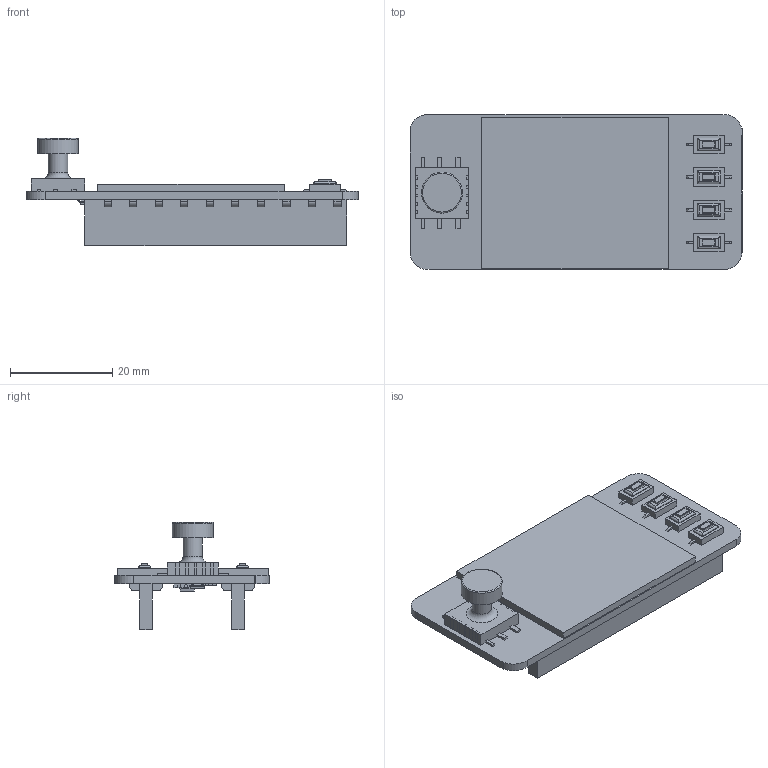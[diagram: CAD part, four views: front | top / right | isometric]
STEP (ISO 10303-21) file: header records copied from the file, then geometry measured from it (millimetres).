
FILE_DESCRIPTION(/* description */ (''),/* implementation_level */ '2;1');
FILE_NAME(/* name */ 'Pico 1.44inch LCD V1.2_step.prt.stp',/* time_stamp */ '2025-08-22T09:22:44+08:00',/* author */ (''),/* organization */ (''),/* preprocessor_version */ 'ST-DEVELOPER v16.7',/* originating_system */ 'SIEMENS PLM Software NX 12.0',/* authorisation */ '');
FILE_SCHEMA (('AUTOMOTIVE_DESIGN { 1 0 10303 214 3 1 1 1 }'));
Length unit declared in the file: millimetre
Products named in the file (40): LOGO_17124; R_060311660; Extruded; C_06033841; LOGO_; SOT23-5-2; SOT23-3; Open CASCADE STEP translator 6.8 6.1.1; A方形按键; Ayuananjian1; Ajiepai; R_0603; R7; R6; R5; R4; U1; C_0603; C14; C13; C9; C8; C7; C6; C5; C4; C3; C2; R3; R2; R1; Q1; 5872944928; J1; C1; C10; C11; C12; Board; Pico 1.44inch LCD V1.2_step
Assembly tree (62 placements, depth 4):
  Pico 1.44inch LCD V1.2_step
    Board
      Open CASCADE STEP translator 6.8 6.1.1
    C12
      C_0603
        LOGO_
        C_06033841
    C11
      C_0603
        LOGO_
        C_06033841
    C10
      C_0603
        LOGO_
        C_06033841
    C1
      C_0603
        LOGO_
        C_06033841
    J1
      5872944928
        Extruded
    Q1
      SOT23-3
    R1
      R_0603
        R_060311660
        LOGO_17124
    R2
      R_0603
        R_060311660
        LOGO_17124
    R3
      R_0603
        R_060311660
        LOGO_17124
    C2
      C_0603
        LOGO_
        C_06033841
    C3
      C_0603
        LOGO_
        C_06033841
    C4
      C_0603
        LOGO_
        C_06033841
    C5
      C_0603
        LOGO_
        C_06033841
    C6
      C_0603
        LOGO_
        C_06033841
    C7
      C_0603
        LOGO_
        C_06033841
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Bounding box: 65.01 x 30.32 x 21 mm (x, y, z)
Volume: 7429.2 mm3; surface area: 12205.6 mm2
Topology: 442 solids, 442 shells, 5374 faces, 12448 edges, 8038 vertices
Faces by surface type: plane 3007, bspline 1512, cylinder 739, sphere 114, torus 2
Full cylindrical faces by diameter (mm): 0.9 x2, 3.8 x1, 8 x1
Entity records: 38416 total; most frequent: CARTESIAN_POINT 11714, ORIENTED_EDGE 4768, DIRECTION 4291, EDGE_CURVE 2384, LINE 1837, VECTOR 1837, VERTEX_POINT 1546, AXIS2_PLACEMENT_3D 1227
